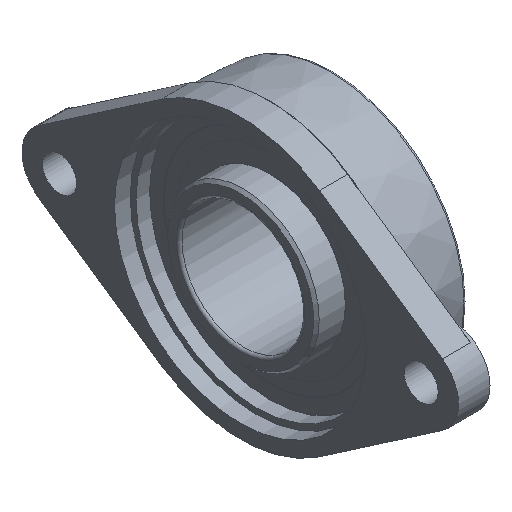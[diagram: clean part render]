
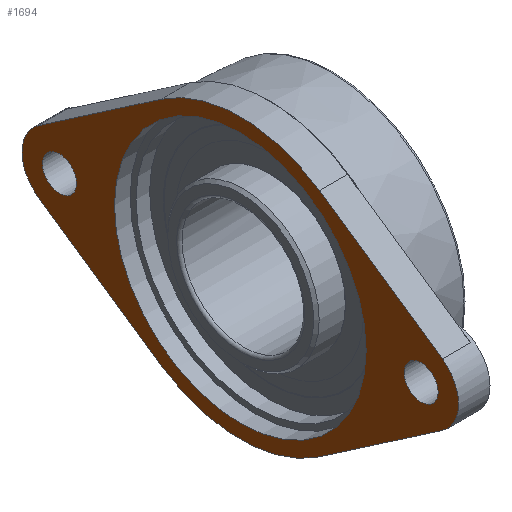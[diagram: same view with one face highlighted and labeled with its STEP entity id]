
A CAD part, isometric view. The second image highlights one B-rep face of the part: STEP entity #1694.
In plain terms, the highlighted planar face has unit normal (-1, 0, 0).
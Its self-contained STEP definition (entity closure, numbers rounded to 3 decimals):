
#28 = CIRCLE ( 'NONE', #2582, 27.5 ) ;
#87 = DIRECTION ( 'NONE',  ( 0., 0., -1. ) ) ;
#120 = AXIS2_PLACEMENT_3D ( 'NONE', #1480, #1478, #1466 ) ;
#137 = DIRECTION ( 'NONE',  ( 0., -0.824, -0.566 ) ) ;
#250 = LINE ( 'NONE', #1200, #252 ) ;
#252 = VECTOR ( 'NONE', #137, 1000. ) ;
#360 = FACE_OUTER_BOUND ( 'NONE', #1249, .T. ) ;
#362 = FACE_BOUND ( 'NONE', #1434, .T. ) ;
#374 = FACE_BOUND ( 'NONE', #944, .T. ) ;
#401 = FACE_BOUND ( 'NONE', #2018, .T. ) ;
#411 = AXIS2_PLACEMENT_3D ( 'NONE', #3008, #3007, #3005 ) ;
#480 = CIRCLE ( 'NONE', #618, 12.5 ) ;
#493 = CIRCLE ( 'NONE', #411, 27.5 ) ;
#536 = CIRCLE ( 'NONE', #1221, 92.25 ) ;
#595 = CIRCLE ( 'NONE', #2671, 102.5 ) ;
#613 = VECTOR ( 'NONE', #2808, 1000. ) ;
#617 = LINE ( 'NONE', #2812, #613 ) ;
#618 = AXIS2_PLACEMENT_3D ( 'NONE', #2474, #2913, #87 ) ;
#668 = VECTOR ( 'NONE', #1235, 1000. ) ;
#674 = CIRCLE ( 'NONE', #120, 102.5 ) ;
#676 = EDGE_CURVE ( 'NONE', #1514, #1514, #679, .T. ) ;
#679 = CIRCLE ( 'NONE', #2637, 12.5 ) ;
#682 = LINE ( 'NONE', #1075, #668 ) ;
#687 = EDGE_CURVE ( 'E240', #2947, #1932, #682, .T. ) ;
#692 = VERTEX_POINT ( 'NONE', #1537 ) ;
#716 = EDGE_CURVE ( 'E214', #869, #1932, #674, .T. ) ;
#723 = CARTESIAN_POINT ( 'NONE',  ( -40., -148.066, -22.67 ) ) ;
#757 = CARTESIAN_POINT ( 'NONE',  ( -40., 0., 0. ) ) ;
#855 = EDGE_CURVE ( 'E329', #1748, #1139, #617, .T. ) ;
#869 = VERTEX_POINT ( 'NONE', #2798 ) ;
#872 = ORIENTED_EDGE ( 'NONE', *, *, #1812, .T. ) ;
#907 = ORIENTED_EDGE ( 'NONE', *, *, #2058, .F. ) ;
#932 = EDGE_CURVE ( 'E350', #1139, #1588, #595, .T. ) ;
#944 = EDGE_LOOP ( 'NONE', ( #1035 ) ) ;
#953 = CARTESIAN_POINT ( 'NONE',  ( -40., 148.066, -22.67 ) ) ;
#994 = ORIENTED_EDGE ( 'NONE', *, *, #932, .F. ) ;
#1001 = ORIENTED_EDGE ( 'NONE', *, *, #676, .T. ) ;
#1035 = ORIENTED_EDGE ( 'NONE', *, *, #1473, .T. ) ;
#1075 = CARTESIAN_POINT ( 'NONE',  ( -40., -148.066, 22.67 ) ) ;
#1086 = CARTESIAN_POINT ( 'NONE',  ( -40., -132.5, 0. ) ) ;
#1088 = DIRECTION ( 'NONE',  ( 1., 0., 0. ) ) ;
#1090 = DIRECTION ( 'NONE',  ( 0., 0., -1. ) ) ;
#1102 = EDGE_CURVE ( 'NONE', #1450, #1450, #536, .T. ) ;
#1139 = VERTEX_POINT ( 'NONE', #2633 ) ;
#1150 = ORIENTED_EDGE ( 'NONE', *, *, #687, .T. ) ;
#1178 = CARTESIAN_POINT ( 'NONE',  ( -40., 148.066, 22.67 ) ) ;
#1200 = CARTESIAN_POINT ( 'NONE',  ( -40., 148.066, -22.67 ) ) ;
#1221 = AXIS2_PLACEMENT_3D ( 'NONE', #2443, #2433, #2430 ) ;
#1235 = DIRECTION ( 'NONE',  ( 0., 0.824, 0.566 ) ) ;
#1249 = EDGE_LOOP ( 'NONE', ( #1821, #2204, #1150, #1414, #1974, #907, #872, #994 ) ) ;
#1378 = CARTESIAN_POINT ( 'NONE',  ( -40., 58.019, -84.499 ) ) ;
#1414 = ORIENTED_EDGE ( 'NONE', *, *, #716, .F. ) ;
#1434 = EDGE_LOOP ( 'NONE', ( #2181 ) ) ;
#1450 = VERTEX_POINT ( 'NONE', #1548 ) ;
#1456 = VECTOR ( 'NONE', #1712, 1000. ) ;
#1466 = DIRECTION ( 'NONE',  ( 0., 0., -1. ) ) ;
#1473 = EDGE_CURVE ( 'NONE', #692, #692, #480, .T. ) ;
#1478 = DIRECTION ( 'NONE',  ( 1., 0., 0. ) ) ;
#1480 = CARTESIAN_POINT ( 'NONE',  ( -40., 0., 0. ) ) ;
#1492 = CARTESIAN_POINT ( 'NONE',  ( -40., 132.5, 0. ) ) ;
#1514 = VERTEX_POINT ( 'NONE', #1624 ) ;
#1537 = CARTESIAN_POINT ( 'NONE',  ( -40., 132.5, -12.5 ) ) ;
#1548 = CARTESIAN_POINT ( 'NONE',  ( -40., 0., -92.25 ) ) ;
#1550 = DIRECTION ( 'NONE',  ( 0., 0., -1. ) ) ;
#1555 = DIRECTION ( 'NONE',  ( 1., 0., 0. ) ) ;
#1588 = VERTEX_POINT ( 'NONE', #1378 ) ;
#1622 = VERTEX_POINT ( 'NONE', #953 ) ;
#1624 = CARTESIAN_POINT ( 'NONE',  ( -40., -132.5, -12.5 ) ) ;
#1664 = DIRECTION ( 'NONE',  ( 1., 0., 0. ) ) ;
#1694 = ADVANCED_FACE ( 'E454', ( #362, #401, #374, #360 ), #2908, .F. ) ;
#1712 = DIRECTION ( 'NONE',  ( 0., -0.824, 0.566 ) ) ;
#1748 = VERTEX_POINT ( 'NONE', #723 ) ;
#1812 = EDGE_CURVE ( 'E376', #1622, #1588, #250, .T. ) ;
#1821 = ORIENTED_EDGE ( 'NONE', *, *, #855, .F. ) ;
#1932 = VERTEX_POINT ( 'NONE', #2874 ) ;
#1963 = CARTESIAN_POINT ( 'NONE',  ( -40., 148.066, 22.67 ) ) ;
#1974 = ORIENTED_EDGE ( 'NONE', *, *, #3055, .F. ) ;
#2010 = DIRECTION ( 'NONE',  ( 0., 0., -1. ) ) ;
#2018 = EDGE_LOOP ( 'NONE', ( #1001 ) ) ;
#2058 = EDGE_CURVE ( 'E382', #1622, #2099, #28, .T. ) ;
#2094 = CARTESIAN_POINT ( 'NONE',  ( -40., -148.066, 22.67 ) ) ;
#2099 = VERTEX_POINT ( 'NONE', #1178 ) ;
#2181 = ORIENTED_EDGE ( 'NONE', *, *, #1102, .T. ) ;
#2204 = ORIENTED_EDGE ( 'NONE', *, *, #2410, .F. ) ;
#2408 = LINE ( 'NONE', #1963, #1456 ) ;
#2410 = EDGE_CURVE ( 'E246', #2947, #1748, #493, .T. ) ;
#2430 = DIRECTION ( 'NONE',  ( 0., 0., -1. ) ) ;
#2433 = DIRECTION ( 'NONE',  ( 1., 0., 0. ) ) ;
#2443 = CARTESIAN_POINT ( 'NONE',  ( -40., 0., 0. ) ) ;
#2474 = CARTESIAN_POINT ( 'NONE',  ( -40., 132.5, 0. ) ) ;
#2512 = AXIS2_PLACEMENT_3D ( 'NONE', #757, #1664, #2010 ) ;
#2544 = DIRECTION ( 'NONE',  ( 0., 0., -1. ) ) ;
#2582 = AXIS2_PLACEMENT_3D ( 'NONE', #1492, #1555, #1550 ) ;
#2633 = CARTESIAN_POINT ( 'NONE',  ( -40., -58.019, -84.499 ) ) ;
#2637 = AXIS2_PLACEMENT_3D ( 'NONE', #1086, #1088, #1090 ) ;
#2671 = AXIS2_PLACEMENT_3D ( 'NONE', #2750, #2748, #2544 ) ;
#2748 = DIRECTION ( 'NONE',  ( 1., 0., 0. ) ) ;
#2750 = CARTESIAN_POINT ( 'NONE',  ( -40., 0., 0. ) ) ;
#2798 = CARTESIAN_POINT ( 'NONE',  ( -40., 58.019, 84.499 ) ) ;
#2808 = DIRECTION ( 'NONE',  ( 0., 0.824, -0.566 ) ) ;
#2812 = CARTESIAN_POINT ( 'NONE',  ( -40., -148.066, -22.67 ) ) ;
#2874 = CARTESIAN_POINT ( 'NONE',  ( -40., -58.019, 84.499 ) ) ;
#2908 = PLANE ( 'NONE',  #2512 ) ;
#2913 = DIRECTION ( 'NONE',  ( 1., 0., 0. ) ) ;
#2947 = VERTEX_POINT ( 'NONE', #2094 ) ;
#3005 = DIRECTION ( 'NONE',  ( 0., 0., -1. ) ) ;
#3007 = DIRECTION ( 'NONE',  ( 1., 0., 0. ) ) ;
#3008 = CARTESIAN_POINT ( 'NONE',  ( -40., -132.5, 0. ) ) ;
#3055 = EDGE_CURVE ( 'E193', #2099, #869, #2408, .T. ) ;
